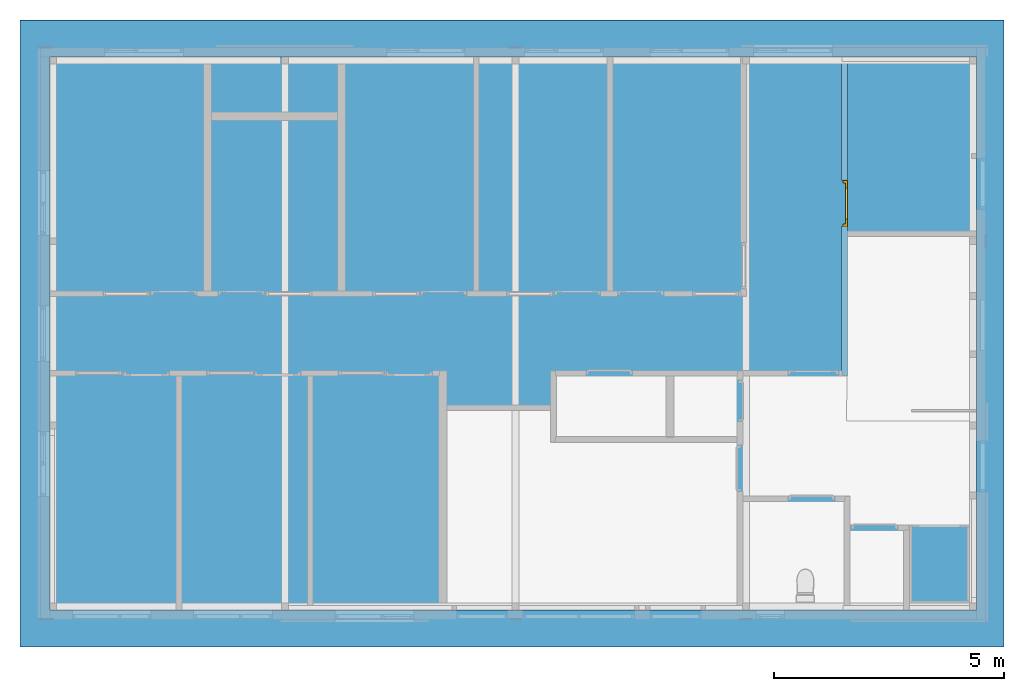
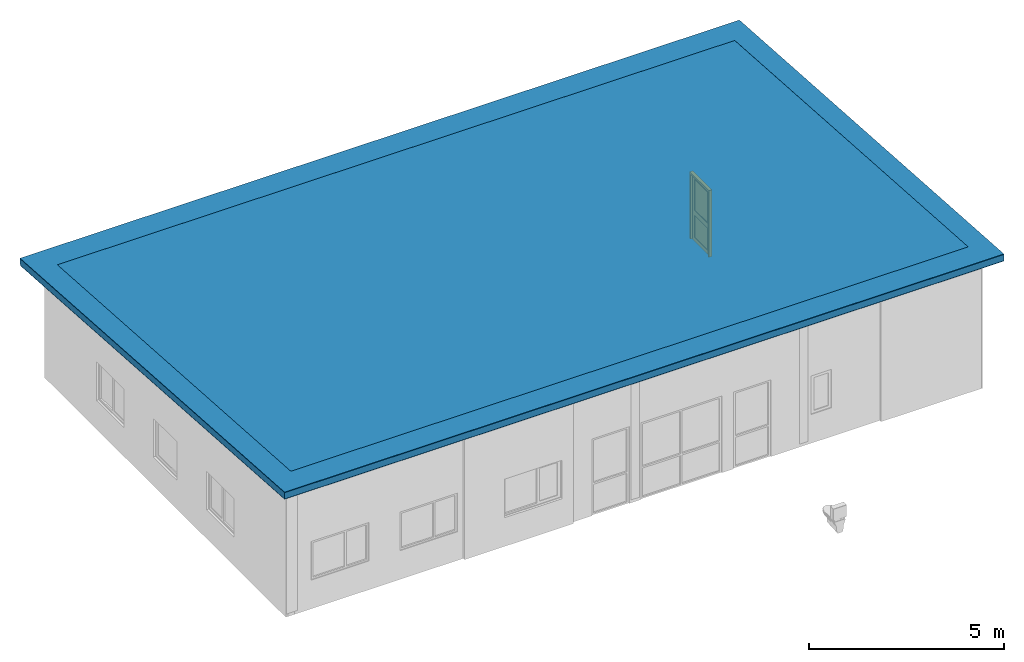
# One storey, part 32 of 37: 5 building element parts, 1 door, 1 opening, 4 elements without a shape of their own, plus 1 element that does not belong to this part.
"""IFC2X3 building model written with IfcOpenShell, lengths in millimetres."""

from ifc_helpers import new_model, entity, si_unit, converted_unit, frame, frame_2d, origin, origin_with_axes, place, context, subcontext, project, spatial, polyline, rectangle, outline, extrude, clip, halfspace, faceted_brep, material, layer, layer_set, layer_usage, type_object, element, fill, aggregate, save


model = new_model("IFC2X3")

# Units and contexts
model_context = context("Model", 3, precision=1e-05, world=origin())
plan_context = context("Plan", 3, precision=1e-05, world=origin())
body_context = subcontext(model_context, "Body", "Model", "MODEL_VIEW")
ifc_project = project(units=[si_unit("LENGTHUNIT", "METRE", prefix="MILLI"), converted_unit("PLANEANGLEUNIT", "DEGREE", entity("IfcPlaneAngleMeasure", 0.0174532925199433), si_unit("PLANEANGLEUNIT", "RADIAN"), dimensions=[0, 0, 0, 0, 0, 0, 0]), si_unit("AREAUNIT", "SQUARE_METRE"), si_unit("VOLUMEUNIT", "CUBIC_METRE")], contexts=[model_context, plan_context])

# Building, storey
building_placement = place(None, origin())
building = spatial("IfcBuilding", under=ifc_project, at=building_placement, Name="HEKF Administrasjonbygg", CompositionType="ELEMENT")
storey_placement = place(building_placement, frame((0.0, 0.0, 9900.0), z_axis=(0.0, 0.0, 1.0), x_axis=(1.0, 0.0, 0.0)))
storey = spatial("IfcBuildingStorey", under=building, at=storey_placement, Name="Plan 2", CompositionType="ELEMENT", Elevation=9900.0)

# Wall, opening, door
ifc_material_1 = material(Name="gips")
ifc_layer_1 = layer(ifc_material_1, 13.0)
ifc_material_2 = material(Name="riegel stål 100")
ifc_layer_2 = layer(ifc_material_2, 100.0)
ifc_material_3 = material(Name="gips")
ifc_layer_3 = layer(ifc_material_3, 13.0)
ifc_layer_set = layer_set([ifc_layer_1, ifc_layer_2, ifc_layer_3])
ifc_layer_usage = layer_usage(ifc_layer_set, "AXIS2", "POSITIVE", 0.0)
wall_placement = place(storey_placement, frame((27077.53209661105, 0.0, 0.0), z_axis=(0.0, 0.0, 1.0), x_axis=(0.0, -1.0, 0.0)))
wall = element("IfcWallStandardCase", 1, at=wall_placement, inside=storey, material=ifc_layer_usage, context=body_context, shape_type="Clipping", body=[
    clip(extrude(outline(polyline([(0.0, 0.0), (6812.0, 0.0), (6812.0, 13.0), (6912.0, 13.0), (6912.0, 113.0), (6925.0, 113.0), (6925.0, 126.0), (0.0, 126.0), (0.0, 0.0)])), origin_with_axes(), (0.0, 0.0, 1.0), 3561.666666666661), halfspace(frame((0.0, 0.0, 3099.999999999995), z_axis=(0.06651901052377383, -2.312668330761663e-15, -0.9977851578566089), x_axis=(0.997785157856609, 0.0, 0.06651901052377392)), True)),
])
opening_placement = place(wall_placement, frame((2674.873037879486, 0.0, 0.0), z_axis=(0.0, 1.0, 0.0), x_axis=(0.0, 0.0, 1.0)))
opening = element("IfcOpeningElement", 2, at=opening_placement, cuts=wall, Name="garasjeport med glassfelter:45x6", ObjectType="Opening", context=body_context, shape_type="SweptSolid", body=[
    extrude(rectangle(XDim=2110.0, YDim=1010.0, at=frame_2d((1055.0, 505.0), x_axis=(1.0, 0.0))), origin_with_axes(), (0.0, 0.0, 1.0), 126.0),
])
ifc_material_4 = material()
door_style = type_object("IfcDoorStyle", Name="D106", ConstructionType="NOTDEFINED", OperationType="USERDEFINED", ParameterTakesPrecedence=False, Sizeable=False)
door_placement = place(opening_placement, frame((0.0, 0.0, 0.0), z_axis=(1.0, 0.0, 0.0), x_axis=(0.0, 1.0, 0.0)))
door = element("IfcDoor", 3, at=door_placement, inside=storey, type_object=door_style, material=ifc_material_4, Name="D106", OverallHeight=2110.0, OverallWidth=1010.0, context=body_context, shape_type="Brep", body=[
    faceted_brep([(1000.0, 125.0000000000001, 2090.0), (950.0, 125.0000000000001, 2090.0), (950.0, 125.0, -2.816687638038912e-15), (1000.0, 125.0, -2.816687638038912e-15), (1000.0, 33.0, 2.816687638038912e-15), (950.0, 33.00000000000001, 2.816687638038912e-15), (950.0, 33.00000000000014, 2090.0), (1000.0, 33.00000000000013, 2090.0), (1000.0, 125.0, -2.816687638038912e-15), (1000.0, 33.0, 2.816687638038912e-15), (1000.0, 33.00000000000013, 2090.0), (1000.0, 125.0000000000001, 2090.0), (950.0, 125.0, -2.816687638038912e-15), (950.0, 33.00000000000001, 2.816687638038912e-15), (1000.0, 33.0, 2.816687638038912e-15), (1000.0, 125.0, -2.816687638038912e-15), (950.0, 125.0000000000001, 2090.0), (950.0, 33.00000000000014, 2090.0), (950.0, 33.00000000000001, 2.816687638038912e-15), (950.0, 125.0, -2.816687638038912e-15), (1000.0, 125.0000000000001, 2090.0), (1000.0, 33.00000000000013, 2090.0), (950.0, 33.00000000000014, 2090.0), (950.0, 125.0000000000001, 2090.0)], [[[0, 1, 2, 3]], [[4, 5, 6, 7]], [[8, 9, 10, 11]], [[12, 13, 14, 15]], [[16, 17, 18, 19]], [[20, 21, 22, 23]]], orient=[[False], [False], [False], [False], [False], [False]]),
    faceted_brep([(60.0, 125.0000000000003, 2090.0), (10.0, 125.0000000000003, 2090.0), (10.0, 125.0000000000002, -2.816687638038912e-15), (60.0, 125.0000000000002, -2.816687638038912e-15), (60.0, 33.00000000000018, 2.816687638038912e-15), (10.0, 33.00000000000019, 2.816687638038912e-15), (10.0, 33.00000000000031, 2090.0), (60.0, 33.00000000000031, 2090.0), (60.0, 125.0000000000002, -2.816687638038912e-15), (60.0, 33.00000000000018, 2.816687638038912e-15), (60.0, 33.00000000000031, 2090.0), (60.0, 125.0000000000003, 2090.0), (10.0, 125.0000000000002, -2.816687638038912e-15), (10.0, 33.00000000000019, 2.816687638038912e-15), (60.0, 33.00000000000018, 2.816687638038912e-15), (60.0, 125.0000000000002, -2.816687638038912e-15), (10.0, 125.0000000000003, 2090.0), (10.0, 33.00000000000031, 2090.0), (10.0, 33.00000000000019, 2.816687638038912e-15), (10.0, 125.0000000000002, -2.816687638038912e-15), (60.0, 125.0000000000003, 2090.0), (60.0, 33.00000000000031, 2090.0), (10.0, 33.00000000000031, 2090.0), (10.0, 125.0000000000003, 2090.0)], [[[0, 1, 2, 3]], [[4, 5, 6, 7]], [[8, 9, 10, 11]], [[12, 13, 14, 15]], [[16, 17, 18, 19]], [[20, 21, 22, 23]]], orient=[[False], [False], [False], [False], [False], [False]]),
    faceted_brep([(950.0, 125.0000000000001, 2090.0), (60.00000000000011, 125.0000000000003, 2090.0), (60.00000000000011, 125.0000000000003, 2040.0), (950.0, 125.0000000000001, 2040.0), (950.0, 33.00000000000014, 2040.0), (60.00000000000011, 33.00000000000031, 2040.0), (60.00000000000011, 33.00000000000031, 2090.0), (950.0, 33.00000000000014, 2090.0), (950.0, 125.0000000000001, 2040.0), (950.0, 33.00000000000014, 2040.0), (950.0, 33.00000000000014, 2090.0), (950.0, 125.0000000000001, 2090.0), (60.00000000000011, 125.0000000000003, 2040.0), (60.00000000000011, 33.00000000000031, 2040.0), (950.0, 33.00000000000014, 2040.0), (950.0, 125.0000000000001, 2040.0), (60.00000000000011, 125.0000000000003, 2090.0), (60.00000000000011, 33.00000000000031, 2090.0), (60.00000000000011, 33.00000000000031, 2040.0), (60.00000000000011, 125.0000000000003, 2040.0), (950.0, 125.0000000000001, 2090.0), (950.0, 33.00000000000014, 2090.0), (60.00000000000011, 33.00000000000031, 2090.0), (60.00000000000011, 125.0000000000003, 2090.0)], [[[0, 1, 2, 3]], [[4, 5, 6, 7]], [[8, 9, 10, 11]], [[12, 13, 14, 15]], [[16, 17, 18, 19]], [[20, 21, 22, 23]]], orient=[[False], [False], [False], [False], [False], [False]]),
    faceted_brep([(970.0, 125.0000000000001, 2060.0), (845.0, 125.0000000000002, 2060.0), (845.0, 125.0, -20.0), (970.0, 125.0, -20.0), (970.0, 85.0, -20.0), (845.0, 85.00000000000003, -20.0), (845.0, 85.00000000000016, 2060.0), (970.0, 85.00000000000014, 2060.0), (970.0, 125.0, -20.0), (970.0, 85.0, -20.0), (970.0, 85.00000000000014, 2060.0), (970.0, 125.0000000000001, 2060.0), (845.0, 125.0, -20.0), (845.0, 85.00000000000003, -20.0), (970.0, 85.0, -20.0), (970.0, 125.0, -20.0), (845.0, 125.0000000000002, 2060.0), (845.0, 85.00000000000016, 2060.0), (845.0, 85.00000000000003, -20.0), (845.0, 125.0, -20.0), (970.0, 125.0000000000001, 2060.0), (970.0, 85.00000000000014, 2060.0), (845.0, 85.00000000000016, 2060.0), (845.0, 125.0000000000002, 2060.0)], [[[0, 1, 2, 3]], [[4, 5, 6, 7]], [[8, 9, 10, 11]], [[12, 13, 14, 15]], [[16, 17, 18, 19]], [[20, 21, 22, 23]]], orient=[[False], [False], [False], [False], [False], [False]]),
    faceted_brep([(165.0000000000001, 125.0000000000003, 2060.0), (40.00000000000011, 125.0000000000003, 2060.0), (40.00000000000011, 125.0000000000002, -20.0), (165.0000000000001, 125.0000000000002, -20.0), (165.0000000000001, 85.00000000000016, -20.0), (40.00000000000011, 85.00000000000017, -20.0), (40.00000000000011, 85.00000000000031, 2060.0), (165.0000000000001, 85.00000000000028, 2060.0), (165.0000000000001, 125.0000000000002, -20.0), (165.0000000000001, 85.00000000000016, -20.0), (165.0000000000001, 85.00000000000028, 2060.0), (165.0000000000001, 125.0000000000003, 2060.0), (40.00000000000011, 125.0000000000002, -20.0), (40.00000000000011, 85.00000000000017, -20.0), (165.0000000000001, 85.00000000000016, -20.0), (165.0000000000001, 125.0000000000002, -20.0), (40.00000000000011, 125.0000000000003, 2060.0), (40.00000000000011, 85.00000000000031, 2060.0), (40.00000000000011, 85.00000000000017, -20.0), (40.00000000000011, 125.0000000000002, -20.0), (165.0000000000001, 125.0000000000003, 2060.0), (165.0000000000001, 85.00000000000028, 2060.0), (40.00000000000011, 85.00000000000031, 2060.0), (40.00000000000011, 125.0000000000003, 2060.0)], [[[0, 1, 2, 3]], [[4, 5, 6, 7]], [[8, 9, 10, 11]], [[12, 13, 14, 15]], [[16, 17, 18, 19]], [[20, 21, 22, 23]]], orient=[[False], [False], [False], [False], [False], [False]]),
    faceted_brep([(845.0, 125.0, 105.0), (165.0000000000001, 125.0000000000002, 105.0), (165.0000000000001, 125.0000000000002, -20.0), (845.0, 125.0, -20.0), (845.0, 85.00000000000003, -20.0), (165.0000000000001, 85.00000000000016, -20.0), (165.0000000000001, 85.00000000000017, 105.0), (845.0, 85.00000000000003, 105.0), (845.0, 125.0, -20.0), (845.0, 85.00000000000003, -20.0), (845.0, 85.00000000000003, 105.0), (845.0, 125.0, 105.0), (165.0000000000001, 125.0000000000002, -20.0), (165.0000000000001, 85.00000000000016, -20.0), (845.0, 85.00000000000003, -20.0), (845.0, 125.0, -20.0), (165.0000000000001, 125.0000000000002, 105.0), (165.0000000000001, 85.00000000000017, 105.0), (165.0000000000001, 85.00000000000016, -20.0), (165.0000000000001, 125.0000000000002, -20.0), (845.0, 125.0, 105.0), (845.0, 85.00000000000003, 105.0), (165.0000000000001, 85.00000000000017, 105.0), (165.0000000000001, 125.0000000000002, 105.0)], [[[0, 1, 2, 3]], [[4, 5, 6, 7]], [[8, 9, 10, 11]], [[12, 13, 14, 15]], [[16, 17, 18, 19]], [[20, 21, 22, 23]]], orient=[[False], [False], [False], [False], [False], [False]]),
    faceted_brep([(845.0, 125.0000000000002, 2060.0), (165.0000000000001, 125.0000000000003, 2060.0), (165.0000000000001, 125.0000000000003, 1935.0), (845.0, 125.0000000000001, 1935.0), (845.0, 85.00000000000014, 1935.0), (165.0000000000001, 85.00000000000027, 1935.0), (165.0000000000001, 85.00000000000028, 2060.0), (845.0, 85.00000000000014, 2060.0), (845.0, 125.0000000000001, 1935.0), (845.0, 85.00000000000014, 1935.0), (845.0, 85.00000000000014, 2060.0), (845.0, 125.0000000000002, 2060.0), (165.0000000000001, 125.0000000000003, 1935.0), (165.0000000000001, 85.00000000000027, 1935.0), (845.0, 85.00000000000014, 1935.0), (845.0, 125.0000000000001, 1935.0), (165.0000000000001, 125.0000000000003, 2060.0), (165.0000000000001, 85.00000000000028, 2060.0), (165.0000000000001, 85.00000000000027, 1935.0), (165.0000000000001, 125.0000000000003, 1935.0), (845.0, 125.0000000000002, 2060.0), (845.0, 85.00000000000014, 2060.0), (165.0000000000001, 85.00000000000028, 2060.0), (165.0000000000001, 125.0000000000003, 2060.0)], [[[0, 1, 2, 3]], [[4, 5, 6, 7]], [[8, 9, 10, 11]], [[12, 13, 14, 15]], [[16, 17, 18, 19]], [[20, 21, 22, 23]]], orient=[[False], [False], [False], [False], [False], [False]]),
    faceted_brep([(845.0, 125.0000000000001, 955.0), (165.0000000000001, 125.0000000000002, 955.0), (165.0000000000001, 125.0000000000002, 805.0), (845.0, 125.0000000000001, 805.0), (845.0, 85.00000000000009, 805.0), (165.0000000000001, 85.00000000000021, 805.0), (165.0000000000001, 85.00000000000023, 955.0), (845.0, 85.00000000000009, 955.0), (845.0, 125.0000000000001, 805.0), (845.0, 85.00000000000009, 805.0), (845.0, 85.00000000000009, 955.0), (845.0, 125.0000000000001, 955.0), (165.0000000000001, 125.0000000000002, 805.0), (165.0000000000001, 85.00000000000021, 805.0), (845.0, 85.00000000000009, 805.0), (845.0, 125.0000000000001, 805.0), (165.0000000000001, 125.0000000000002, 955.0), (165.0000000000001, 85.00000000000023, 955.0), (165.0000000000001, 85.00000000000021, 805.0), (165.0000000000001, 125.0000000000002, 805.0), (845.0, 125.0000000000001, 955.0), (845.0, 85.00000000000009, 955.0), (165.0000000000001, 85.00000000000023, 955.0), (165.0000000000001, 125.0000000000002, 955.0)], [[[0, 1, 2, 3]], [[4, 5, 6, 7]], [[8, 9, 10, 11]], [[12, 13, 14, 15]], [[16, 17, 18, 19]], [[20, 21, 22, 23]]], orient=[[False], [False], [False], [False], [False], [False]]),
    faceted_brep([(845.0, 105.0, 105.0), (845.0, 105.0000000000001, 805.0), (165.0000000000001, 105.0000000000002, 805.0), (165.0000000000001, 105.0000000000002, 105.0), (845.0, 104.0, 105.0), (165.0000000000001, 104.0000000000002, 105.0), (165.0000000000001, 104.0000000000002, 805.0), (845.0, 104.0000000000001, 805.0), (845.0, 105.0, 105.0), (845.0, 104.0, 105.0), (845.0, 104.0000000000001, 805.0), (845.0, 105.0000000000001, 805.0), (845.0, 105.0000000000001, 805.0), (845.0, 104.0000000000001, 805.0), (165.0000000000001, 104.0000000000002, 805.0), (165.0000000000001, 105.0000000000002, 805.0), (165.0000000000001, 105.0000000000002, 805.0), (165.0000000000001, 104.0000000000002, 805.0), (165.0000000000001, 104.0000000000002, 105.0), (165.0000000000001, 105.0000000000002, 105.0), (165.0000000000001, 105.0000000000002, 105.0), (165.0000000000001, 104.0000000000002, 105.0), (845.0, 104.0, 105.0), (845.0, 105.0, 105.0)], [[[0, 1, 2, 3]], [[4, 5, 6, 7]], [[8, 9, 10, 11]], [[12, 13, 14, 15]], [[16, 17, 18, 19]], [[20, 21, 22, 23]]], orient=[[False], [False], [False], [False], [False], [False]]),
    faceted_brep([(845.0, 105.0000000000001, 955.0), (845.0, 105.0000000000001, 1935.0), (165.0000000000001, 105.0000000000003, 1935.0), (165.0000000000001, 105.0000000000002, 955.0), (845.0, 104.0000000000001, 955.0), (165.0000000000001, 104.0000000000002, 955.0), (165.0000000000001, 104.0000000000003, 1935.0), (845.0, 104.0000000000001, 1935.0), (845.0, 105.0000000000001, 955.0), (845.0, 104.0000000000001, 955.0), (845.0, 104.0000000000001, 1935.0), (845.0, 105.0000000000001, 1935.0), (845.0, 105.0000000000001, 1935.0), (845.0, 104.0000000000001, 1935.0), (165.0000000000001, 104.0000000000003, 1935.0), (165.0000000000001, 105.0000000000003, 1935.0), (165.0000000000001, 105.0000000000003, 1935.0), (165.0000000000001, 104.0000000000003, 1935.0), (165.0000000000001, 104.0000000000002, 955.0), (165.0000000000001, 105.0000000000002, 955.0), (165.0000000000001, 105.0000000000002, 955.0), (165.0000000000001, 104.0000000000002, 955.0), (845.0, 104.0000000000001, 955.0), (845.0, 105.0000000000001, 955.0)], [[[0, 1, 2, 3]], [[4, 5, 6, 7]], [[8, 9, 10, 11]], [[12, 13, 14, 15]], [[16, 17, 18, 19]], [[20, 21, 22, 23]]], orient=[[False], [False], [False], [False], [False], [False]]),
])
fill(opening, door)

# Roof, slab, building element parts
roof_1_placement = place(storey_placement, frame((0.0, 0.0, -9900.0), z_axis=(0.0, 0.0, 1.0), x_axis=(1.0, 0.0, 0.0)))
roof_1 = element("IfcRoof", 4, at=roof_1_placement, inside=storey, ShapeType="NOTDEFINED")
slab_1_placement = place(roof_1_placement, origin_with_axes())
slab_1 = element("IfcSlab", 5, at=slab_1_placement, PredefinedType="ROOF")
aggregate(roof_1, [slab_1])
ifc_material_5 = material(Name="Decra")
building_element_part_1_placement = place(slab_1_placement, origin_with_axes())
building_element_part_1 = element("IfcBuildingElementPart", 6, at=building_element_part_1_placement, material=ifc_material_5, context=body_context, shape_type="Brep", body=[
    faceted_brep([(9253.999999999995, 799.9999999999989, 13408.68997536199), (9253.999999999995, -12800.0, 14315.35664202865), (30600.0, -12800.0, 14315.35664202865), (30600.0, 799.9999999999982, 13408.68997536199), (9899.999999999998, -12000.0, 14262.02330869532), (9899.999999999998, 0.0, 13462.02330869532), (30001.15670311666, 0.0, 13462.02330869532), (30001.15670311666, -12000.0, 14262.02330869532), (9253.999999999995, 799.9999999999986, 13412.69885439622), (30600.0, 799.9999999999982, 13412.69885439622), (30600.0, -12800.0, 14319.36552106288), (9253.999999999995, -12800.0, 14319.36552106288), (9899.999999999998, 0.0, 13466.03218772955), (9899.999999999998, -12000.0, 14266.03218772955), (30001.15670311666, -12000.0, 14266.03218772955), (30001.15670311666, 0.0, 13466.03218772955), (9253.999999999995, -12800.0, 14319.36552106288), (30600.0, -12800.0, 14319.36552106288), (30600.0, -12800.0, 14315.35664202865), (9253.999999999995, -12800.0, 14315.35664202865), (30600.0, -12800.0, 14319.36552106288), (30600.0, 799.9999999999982, 13412.69885439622), (30600.0, 799.9999999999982, 13408.68997536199), (30600.0, -12800.0, 14315.35664202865), (30600.0, 799.9999999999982, 13412.69885439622), (9253.999999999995, 799.9999999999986, 13412.69885439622), (9253.999999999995, 799.9999999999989, 13408.68997536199), (30600.0, 799.9999999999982, 13408.68997536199), (9253.999999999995, 799.9999999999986, 13412.69885439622), (9253.999999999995, -12800.0, 14319.36552106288), (9253.999999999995, -12800.0, 14315.35664202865), (9253.999999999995, 799.9999999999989, 13408.68997536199), (9899.999999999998, -12000.0, 14266.03218772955), (9899.999999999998, 0.0, 13466.03218772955), (9899.999999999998, 0.0, 13462.02330869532), (9899.999999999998, -12000.0, 14262.02330869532), (30001.15670311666, -12000.0, 14266.03218772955), (9899.999999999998, -12000.0, 14266.03218772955), (9899.999999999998, -12000.0, 14262.02330869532), (30001.15670311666, -12000.0, 14262.02330869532), (30001.15670311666, 0.0, 13466.03218772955), (30001.15670311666, -12000.0, 14266.03218772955), (30001.15670311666, -12000.0, 14262.02330869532), (30001.15670311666, 0.0, 13462.02330869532), (9899.999999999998, 0.0, 13466.03218772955), (30001.15670311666, 0.0, 13466.03218772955), (30001.15670311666, 0.0, 13462.02330869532), (9899.999999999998, 0.0, 13462.02330869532)], [[[0, 1, 2, 3], [4, 5, 6, 7]], [[8, 9, 10, 11], [12, 13, 14, 15]], [[16, 17, 18, 19]], [[20, 21, 22, 23]], [[24, 25, 26, 27]], [[28, 29, 30, 31]], [[32, 33, 34, 35]], [[36, 37, 38, 39]], [[40, 41, 42, 43]], [[44, 45, 46, 47]]], orient=[[False, False], [False, False], [False], [False], [False], [False], [False], [False], [False], [False]]),
])
ifc_material_6 = material(Name="Taktro")
building_element_part_2_placement = place(slab_1_placement, origin_with_axes())
building_element_part_2 = element("IfcBuildingElementPart", 7, at=building_element_part_2_placement, material=ifc_material_6, context=body_context, shape_type="Brep", body=[
    faceted_brep([(9253.999999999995, 799.2017718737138, 13396.71655346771), (9253.999999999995, -12800.0, 14303.33000492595), (30600.0, -12800.0, 14303.33000492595), (30600.0, 799.2017718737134, 13396.71655346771), (9899.999999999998, -12000.0, 14249.99667159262), (9899.999999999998, 0.0, 13449.99667159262), (30001.15670311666, 0.0, 13449.99667159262), (30001.15670311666, -12000.0, 14249.99667159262), (9253.999999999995, 799.9999999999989, 13408.68997536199), (30600.0, 799.9999999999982, 13408.68997536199), (30600.0, -12800.0, 14315.35664202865), (9253.999999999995, -12800.0, 14315.35664202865), (9899.999999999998, 0.0, 13462.02330869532), (9899.999999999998, -12000.0, 14262.02330869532), (30001.15670311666, -12000.0, 14262.02330869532), (30001.15670311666, 0.0, 13462.02330869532), (9253.999999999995, -12800.0, 14315.35664202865), (30600.0, -12800.0, 14315.35664202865), (30600.0, -12800.0, 14303.33000492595), (9253.999999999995, -12800.0, 14303.33000492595), (30600.0, -12800.0, 14315.35664202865), (30600.0, 799.9999999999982, 13408.68997536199), (30600.0, 799.2017718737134, 13396.71655346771), (30600.0, -12800.0, 14303.33000492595), (30600.0, 799.9999999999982, 13408.68997536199), (9253.999999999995, 799.9999999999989, 13408.68997536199), (9253.999999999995, 799.2017718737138, 13396.71655346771), (30600.0, 799.2017718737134, 13396.71655346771), (9253.999999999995, 799.9999999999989, 13408.68997536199), (9253.999999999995, -12800.0, 14315.35664202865), (9253.999999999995, -12800.0, 14303.33000492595), (9253.999999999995, 799.2017718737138, 13396.71655346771), (9899.999999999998, -12000.0, 14262.02330869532), (9899.999999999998, 0.0, 13462.02330869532), (9899.999999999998, 0.0, 13449.99667159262), (9899.999999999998, -12000.0, 14249.99667159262), (30001.15670311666, -12000.0, 14262.02330869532), (9899.999999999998, -12000.0, 14262.02330869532), (9899.999999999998, -12000.0, 14249.99667159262), (30001.15670311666, -12000.0, 14249.99667159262), (30001.15670311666, 0.0, 13462.02330869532), (30001.15670311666, -12000.0, 14262.02330869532), (30001.15670311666, -12000.0, 14249.99667159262), (30001.15670311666, 0.0, 13449.99667159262), (9899.999999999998, 0.0, 13462.02330869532), (30001.15670311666, 0.0, 13462.02330869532), (30001.15670311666, 0.0, 13449.99667159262), (9899.999999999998, 0.0, 13449.99667159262)], [[[0, 1, 2, 3], [4, 5, 6, 7]], [[8, 9, 10, 11], [12, 13, 14, 15]], [[16, 17, 18, 19]], [[20, 21, 22, 23]], [[24, 25, 26, 27]], [[28, 29, 30, 31]], [[32, 33, 34, 35]], [[36, 37, 38, 39]], [[40, 41, 42, 43]], [[44, 45, 46, 47]]], orient=[[False, False], [False, False], [False], [False], [False], [False], [False], [False], [False], [False]]),
])
ifc_material_7 = material(Name="Utstikk")
building_element_part_3_placement = place(slab_1_placement, origin_with_axes())
building_element_part_3 = element("IfcBuildingElementPart", 8, at=building_element_part_3_placement, material=ifc_material_7, context=body_context, shape_type="Brep", body=[
    faceted_brep([(9253.999999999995, 786.031007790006, 13199.1550922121), (9253.999999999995, -12800.0, 14104.89049273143), (30600.0, -12800.0, 14104.89049273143), (30600.0, 786.0310077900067, 13199.1550922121), (9899.999999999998, -12000.0, 14051.55715939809), (9899.999999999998, 0.0, 13251.5571593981), (30001.15670311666, 0.0, 13251.5571593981), (30001.15670311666, -12000.0, 14051.55715939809), (9253.999999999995, 799.2017718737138, 13396.71655346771), (30600.0, 799.2017718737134, 13396.71655346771), (30600.0, -12800.0, 14303.33000492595), (9253.999999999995, -12800.0, 14303.33000492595), (9899.999999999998, 0.0, 13449.99667159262), (9899.999999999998, -12000.0, 14249.99667159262), (30001.15670311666, -12000.0, 14249.99667159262), (30001.15670311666, 0.0, 13449.99667159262), (9253.999999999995, -12800.0, 14303.33000492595), (30600.0, -12800.0, 14303.33000492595), (30600.0, -12800.0, 14104.89049273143), (9253.999999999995, -12800.0, 14104.89049273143), (30600.0, -12800.0, 14303.33000492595), (30600.0, 799.2017718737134, 13396.71655346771), (30600.0, 786.0310077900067, 13199.1550922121), (30600.0, -12800.0, 14104.89049273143), (30600.0, 799.2017718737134, 13396.71655346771), (9253.999999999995, 799.2017718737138, 13396.71655346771), (9253.999999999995, 786.031007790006, 13199.1550922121), (30600.0, 786.0310077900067, 13199.1550922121), (9253.999999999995, 799.2017718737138, 13396.71655346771), (9253.999999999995, -12800.0, 14303.33000492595), (9253.999999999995, -12800.0, 14104.89049273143), (9253.999999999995, 786.031007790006, 13199.1550922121), (9899.999999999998, -12000.0, 14249.99667159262), (9899.999999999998, 0.0, 13449.99667159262), (9899.999999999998, 0.0, 13251.5571593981), (9899.999999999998, -12000.0, 14051.55715939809), (30001.15670311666, -12000.0, 14249.99667159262), (9899.999999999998, -12000.0, 14249.99667159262), (9899.999999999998, -12000.0, 14051.55715939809), (30001.15670311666, -12000.0, 14051.55715939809), (30001.15670311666, 0.0, 13449.99667159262), (30001.15670311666, -12000.0, 14249.99667159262), (30001.15670311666, -12000.0, 14051.55715939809), (30001.15670311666, 0.0, 13251.5571593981), (9899.999999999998, 0.0, 13449.99667159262), (30001.15670311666, 0.0, 13449.99667159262), (30001.15670311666, 0.0, 13251.5571593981), (9899.999999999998, 0.0, 13251.5571593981)], [[[0, 1, 2, 3], [4, 5, 6, 7]], [[8, 9, 10, 11], [12, 13, 14, 15]], [[16, 17, 18, 19]], [[20, 21, 22, 23]], [[24, 25, 26, 27]], [[28, 29, 30, 31]], [[32, 33, 34, 35]], [[36, 37, 38, 39]], [[40, 41, 42, 43]], [[44, 45, 46, 47]]], orient=[[False, False], [False, False], [False], [False], [False], [False], [False], [False], [False], [False]]),
])
ifc_material_8 = material(Name="Sperresjikt")
building_element_part_4_placement = place(slab_1_placement, origin_with_axes())
building_element_part_4 = element("IfcBuildingElementPart", 9, at=building_element_part_4_placement, material=ifc_material_8, context=body_context, shape_type="Brep", body=[
    faceted_brep([(9253.999999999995, 785.3658176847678, 13189.17724063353), (9253.999999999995, -12800.0, 14094.86829514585), (30600.0, -12800.0, 14094.86829514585), (30600.0, 785.3658176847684, 13189.17724063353), (9899.999999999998, -12000.0, 14041.53496181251), (9899.999999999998, 0.0, 13241.53496181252), (30001.15670311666, 0.0, 13241.53496181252), (30001.15670311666, -12000.0, 14041.53496181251), (9253.999999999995, 786.031007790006, 13199.1550922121), (30600.0, 786.0310077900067, 13199.1550922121), (30600.0, -12800.0, 14104.89049273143), (9253.999999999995, -12800.0, 14104.89049273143), (9899.999999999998, 0.0, 13251.5571593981), (9899.999999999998, -12000.0, 14051.5571593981), (30001.15670311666, -12000.0, 14051.5571593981), (30001.15670311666, 0.0, 13251.5571593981), (9253.999999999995, -12800.0, 14104.89049273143), (30600.0, -12800.0, 14104.89049273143), (30600.0, -12800.0, 14094.86829514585), (9253.999999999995, -12800.0, 14094.86829514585), (30600.0, -12800.0, 14104.89049273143), (30600.0, 786.0310077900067, 13199.1550922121), (30600.0, 785.3658176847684, 13189.17724063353), (30600.0, -12800.0, 14094.86829514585), (30600.0, 786.0310077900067, 13199.1550922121), (9253.999999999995, 786.031007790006, 13199.1550922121), (9253.999999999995, 785.3658176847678, 13189.17724063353), (30600.0, 785.3658176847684, 13189.17724063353), (9253.999999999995, 786.031007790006, 13199.1550922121), (9253.999999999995, -12800.0, 14104.89049273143), (9253.999999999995, -12800.0, 14094.86829514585), (9253.999999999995, 785.3658176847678, 13189.17724063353), (9899.999999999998, -12000.0, 14051.5571593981), (9899.999999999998, 0.0, 13251.5571593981), (9899.999999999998, 0.0, 13241.53496181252), (9899.999999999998, -12000.0, 14041.53496181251), (30001.15670311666, -12000.0, 14051.5571593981), (9899.999999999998, -12000.0, 14051.5571593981), (9899.999999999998, -12000.0, 14041.53496181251), (30001.15670311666, -12000.0, 14041.53496181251), (30001.15670311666, 0.0, 13251.5571593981), (30001.15670311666, -12000.0, 14051.5571593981), (30001.15670311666, -12000.0, 14041.53496181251), (30001.15670311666, 0.0, 13241.53496181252), (9899.999999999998, 0.0, 13251.5571593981), (30001.15670311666, 0.0, 13251.5571593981), (30001.15670311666, 0.0, 13241.53496181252), (9899.999999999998, 0.0, 13241.53496181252)], [[[0, 1, 2, 3], [4, 5, 6, 7]], [[8, 9, 10, 11], [12, 13, 14, 15]], [[16, 17, 18, 19]], [[20, 21, 22, 23]], [[24, 25, 26, 27]], [[28, 29, 30, 31]], [[32, 33, 34, 35]], [[36, 37, 38, 39]], [[40, 41, 42, 43]], [[44, 45, 46, 47]]], orient=[[False, False], [False, False], [False], [False], [False], [False], [False], [False], [False], [False]]),
])
aggregate(slab_1, [building_element_part_1, building_element_part_2, building_element_part_3, building_element_part_4])

# Roof, slab, building element part
roof_2_placement = place(storey_placement, frame((0.0, 0.0, -9900.0), z_axis=(0.0, 0.0, 1.0), x_axis=(1.0, 0.0, 0.0)))
roof_2 = element("IfcRoof", 10, at=roof_2_placement, inside=storey, ShapeType="NOTDEFINED")
slab_2_placement = place(roof_2_placement, origin_with_axes())
slab_2 = element("IfcSlab", 11, at=slab_2_placement, PredefinedType="ROOF")
aggregate(roof_2, [slab_2])
ifc_material_9 = material(Name="Derbigum")
building_element_part_5_placement = place(slab_2_placement, origin_with_axes())
building_element_part_5 = element("IfcBuildingElementPart", 12, at=building_element_part_5_placement, material=ifc_material_9, context=body_context, shape_type="Brep", body=[
    faceted_brep([(30001.15670311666, -12000.0, 14262.02330869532), (30001.15670311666, -8346.305378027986, 14018.44366723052), (29998.93546079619, -6.366462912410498e-12, 13462.02330869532), (9899.999999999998, 0.0, 13462.02330869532), (9899.999999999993, -12000.0, 14262.02330869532), (30001.15670311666, -12000.0, 14266.03218772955), (9899.999999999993, -12000.0, 14266.03218772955), (9899.999999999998, 0.0, 13466.03218772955), (29998.93546079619, -6.366462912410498e-12, 13466.03218772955), (30001.15670311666, -8346.305378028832, 14022.45254626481), (30001.15670311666, -8346.305378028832, 14022.45254626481), (29998.93546079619, -6.366462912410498e-12, 13466.03218772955), (29998.93546079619, -6.366462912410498e-12, 13462.02330869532), (30001.15670311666, -8346.305378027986, 14018.44366723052), (29998.93546079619, -6.366462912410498e-12, 13466.03218772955), (9899.999999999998, 0.0, 13466.03218772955), (9899.999999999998, 0.0, 13462.02330869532), (29998.93546079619, -6.366462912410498e-12, 13462.02330869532), (9899.999999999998, 0.0, 13466.03218772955), (9899.999999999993, -12000.0, 14266.03218772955), (9899.999999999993, -12000.0, 14262.02330869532), (9899.999999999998, 0.0, 13462.02330869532), (9899.999999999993, -12000.0, 14266.03218772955), (30001.15670311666, -12000.0, 14266.03218772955), (30001.15670311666, -12000.0, 14262.02330869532), (9899.999999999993, -12000.0, 14262.02330869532), (30001.15670311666, -12000.0, 14266.03218772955), (30001.15670311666, -8346.305378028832, 14022.45254626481), (30001.15670311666, -8346.305378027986, 14018.44366723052), (30001.15670311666, -12000.0, 14262.02330869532)], [[[0, 1, 2, 3, 4]], [[5, 6, 7, 8, 9]], [[10, 11, 12, 13]], [[14, 15, 16, 17]], [[18, 19, 20, 21]], [[22, 23, 24, 25]], [[26, 27, 28, 29]]], orient=[[False], [False], [False], [False], [False], [False], [False]]),
])
aggregate(slab_2, [building_element_part_5])

save(model, "model.ifc")
